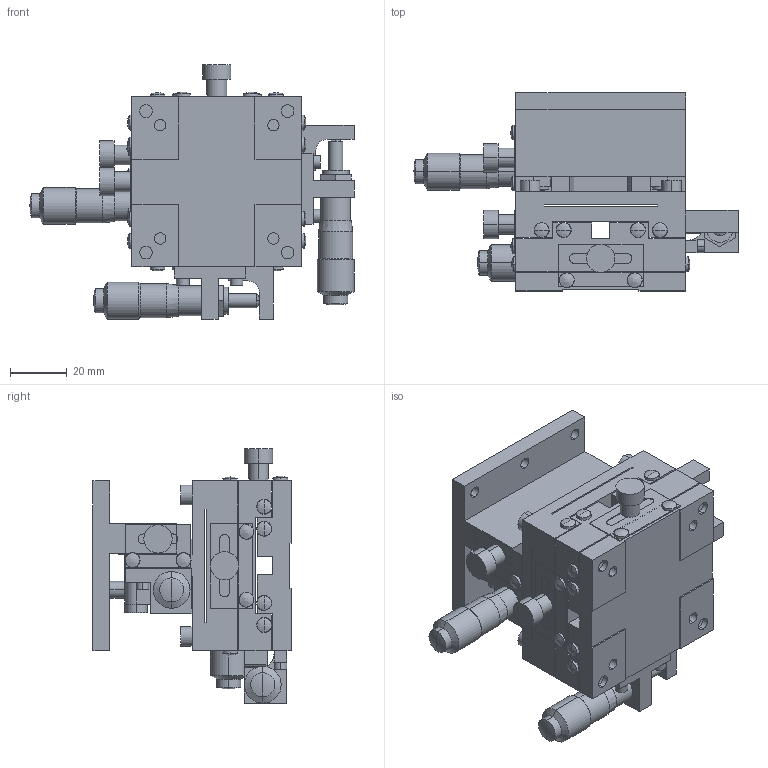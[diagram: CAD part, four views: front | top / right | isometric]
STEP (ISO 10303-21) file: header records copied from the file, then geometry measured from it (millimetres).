
FILE_DESCRIPTION (( 'STEP AP203' ), '1' );
FILE_NAME ('LT-6047-S1.STEP', '2011-08-11T08:33:29', ( '' ), ( '' ), 'SwSTEP 2.0', 'SolidWorks 2011', '' );
FILE_SCHEMA (( 'CONFIG_CONTROL_DESIGN' ));
Length unit declared in the file: millimetre
Products named in the file (7): LT-6047-S1; LT-6047-S1-6; LT-6047-S1-5; LT-6047-S1-4; LT-6047-S1-3; LT-6047-S1-2; LT-6047-S1-1
Assembly tree (6 placements, depth 2):
  LT-6047-S1
    LT-6047-S1-5
    LT-6047-S1-4
    LT-6047-S1-2
    LT-6047-S1-6
    LT-6047-S1-3
    LT-6047-S1-1
Bounding box: 114.5 x 70 x 89.8 mm (x, y, z)
Volume: 179608.6 mm3; surface area: 78548.3 mm2
Topology: 8 solids, 23 shells, 695 faces, 1703 edges, 1080 vertices
Faces by surface type: plane 329, cylinder 232, cone 78, sphere 40, bspline 10, torus 6
Entity records: 23283 total; most frequent: CARTESIAN_POINT 5562, DIRECTION 3737, ORIENTED_EDGE 3378, EDGE_CURVE 1689, AXIS2_PLACEMENT_3D 1383, VERTEX_POINT 1080, VECTOR 971, LINE 971
